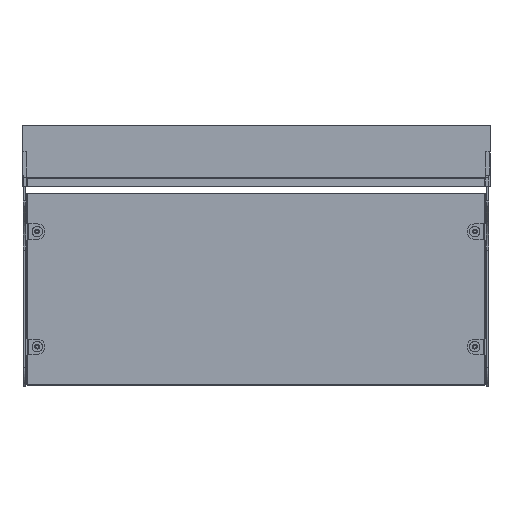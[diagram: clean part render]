
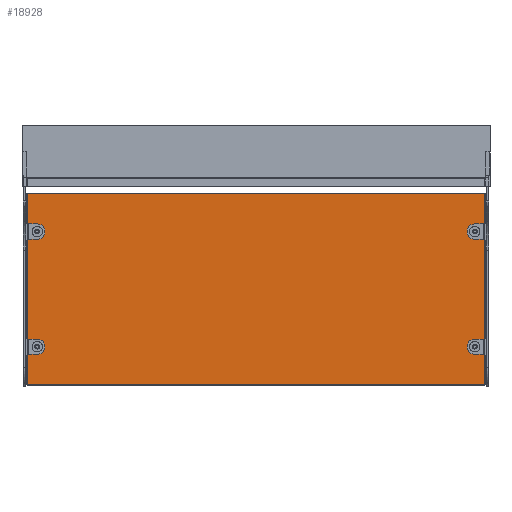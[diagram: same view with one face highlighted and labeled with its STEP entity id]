
A CAD part, front view. The second image highlights one B-rep face of the part: STEP entity #18928.
In plain terms, the highlighted planar face has unit normal (0, -1, -0.018).
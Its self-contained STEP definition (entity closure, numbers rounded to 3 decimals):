
#329 = DIRECTION ( 'NONE',  ( 1., 0., 0. ) ) ;
#517 = DIRECTION ( 'NONE',  ( 0., 1., 0.017 ) ) ;
#556 = CARTESIAN_POINT ( 'NONE',  ( 285., 731.657, -288.359 ) ) ;
#603 = ORIENTED_EDGE ( 'NONE', *, *, #13571, .T. ) ;
#637 = AXIS2_PLACEMENT_3D ( 'NONE', #6532, #4719, #4609 ) ;
#1152 = VERTEX_POINT ( 'NONE', #12552 ) ;
#1166 = DIRECTION ( 'NONE',  ( 0., 1., 0.017 ) ) ;
#1315 = EDGE_LOOP ( 'NONE', ( #4545, #18862 ) ) ;
#1637 = CARTESIAN_POINT ( 'NONE',  ( -550.407, 732.512, -337.352 ) ) ;
#1751 = CIRCLE ( 'NONE', #13664, 3.15 ) ;
#1856 = ORIENTED_EDGE ( 'NONE', *, *, #17512, .T. ) ;
#1965 = CIRCLE ( 'NONE', #13250, 3.15 ) ;
#2098 = EDGE_CURVE ( 'NONE', #6973, #17667, #19669, .T. ) ;
#2411 = ORIENTED_EDGE ( 'NONE', *, *, #4173, .T. ) ;
#2561 = EDGE_CURVE ( 'NONE', #1152, #12020, #1965, .T. ) ;
#2682 = FACE_BOUND ( 'NONE', #10963, .T. ) ;
#2971 = DIRECTION ( 'NONE',  ( 1., 0., 0. ) ) ;
#3406 = DIRECTION ( 'NONE',  ( 0., 1., 0.017 ) ) ;
#3552 = CARTESIAN_POINT ( 'NONE',  ( 285., 729.039, -138.382 ) ) ;
#3636 = ORIENTED_EDGE ( 'NONE', *, *, #5932, .F. ) ;
#3678 = CIRCLE ( 'NONE', #4309, 3.15 ) ;
#3817 = EDGE_CURVE ( 'NONE', #6271, #10224, #3678, .T. ) ;
#3929 = EDGE_CURVE ( 'NONE', #18760, #6718, #1751, .T. ) ;
#4099 = VECTOR ( 'NONE', #9112, 1000. ) ;
#4173 = EDGE_CURVE ( 'NONE', #13532, #5659, #6592, .T. ) ;
#4174 = CARTESIAN_POINT ( 'NONE',  ( -285., 731.657, -288.359 ) ) ;
#4309 = AXIS2_PLACEMENT_3D ( 'NONE', #14521, #18764, #8087 ) ;
#4420 = LINE ( 'NONE', #16634, #16231 ) ;
#4545 = ORIENTED_EDGE ( 'NONE', *, *, #8965, .F. ) ;
#4609 = DIRECTION ( 'NONE',  ( 0., 0.017, -1. ) ) ;
#4719 = DIRECTION ( 'NONE',  ( 0., -1., -0.017 ) ) ;
#4753 = AXIS2_PLACEMENT_3D ( 'NONE', #4174, #14982, #7302 ) ;
#5088 = ORIENTED_EDGE ( 'NONE', *, *, #3817, .F. ) ;
#5659 = VERTEX_POINT ( 'NONE', #13298 ) ;
#5891 = CARTESIAN_POINT ( 'NONE',  ( 285., 731.602, -285.21 ) ) ;
#5932 = EDGE_CURVE ( 'NONE', #10224, #6271, #13465, .T. ) ;
#6058 = ORIENTED_EDGE ( 'NONE', *, *, #2561, .T. ) ;
#6271 = VERTEX_POINT ( 'NONE', #12618 ) ;
#6272 = CIRCLE ( 'NONE', #18178, 3.15 ) ;
#6525 = DIRECTION ( 'NONE',  ( 0., 0.017, -1. ) ) ;
#6532 = CARTESIAN_POINT ( 'NONE',  ( -285., 729.039, -138.382 ) ) ;
#6592 = LINE ( 'NONE', #1637, #8516 ) ;
#6718 = VERTEX_POINT ( 'NONE', #14139 ) ;
#6973 = VERTEX_POINT ( 'NONE', #5891 ) ;
#7302 = DIRECTION ( 'NONE',  ( 0., 0.017, -1. ) ) ;
#7510 = FACE_OUTER_BOUND ( 'NONE', #14234, .T. ) ;
#8022 = CARTESIAN_POINT ( 'NONE',  ( 285., 731.712, -291.509 ) ) ;
#8087 = DIRECTION ( 'NONE',  ( 0., 0.017, -1. ) ) ;
#8516 = VECTOR ( 'NONE', #329, 1000. ) ;
#8965 = EDGE_CURVE ( 'NONE', #6718, #18760, #14172, .T. ) ;
#9000 = LINE ( 'NONE', #15234, #19166 ) ;
#9044 = FACE_BOUND ( 'NONE', #1315, .T. ) ;
#9112 = DIRECTION ( 'NONE',  ( 0., 0.017, -1. ) ) ;
#9181 = CIRCLE ( 'NONE', #14339, 3.15 ) ;
#9220 = CARTESIAN_POINT ( 'NONE',  ( 285., 729.039, -138.382 ) ) ;
#9706 = EDGE_LOOP ( 'NONE', ( #5088, #3636 ) ) ;
#9808 = EDGE_CURVE ( 'NONE', #17924, #5659, #18383, .T. ) ;
#10224 = VERTEX_POINT ( 'NONE', #17772 ) ;
#10655 = CARTESIAN_POINT ( 'NONE',  ( -550.407, 726.762, -7.918 ) ) ;
#10963 = EDGE_LOOP ( 'NONE', ( #1856, #11883 ) ) ;
#10977 = AXIS2_PLACEMENT_3D ( 'NONE', #556, #3406, #6525 ) ;
#11883 = ORIENTED_EDGE ( 'NONE', *, *, #2098, .T. ) ;
#12020 = VERTEX_POINT ( 'NONE', #19859 ) ;
#12161 = CARTESIAN_POINT ( 'NONE',  ( 285., 731.657, -288.359 ) ) ;
#12552 = CARTESIAN_POINT ( 'NONE',  ( 285., 729.094, -141.532 ) ) ;
#12618 = CARTESIAN_POINT ( 'NONE',  ( -285., 731.712, -291.509 ) ) ;
#12745 = DIRECTION ( 'NONE',  ( 0., 0.017, -1. ) ) ;
#13250 = AXIS2_PLACEMENT_3D ( 'NONE', #3552, #517, #12745 ) ;
#13298 = CARTESIAN_POINT ( 'NONE',  ( 298., 732.512, -337.352 ) ) ;
#13465 = CIRCLE ( 'NONE', #4753, 3.15 ) ;
#13532 = VERTEX_POINT ( 'NONE', #15991 ) ;
#13571 = EDGE_CURVE ( 'NONE', #17808, #13532, #9000, .T. ) ;
#13664 = AXIS2_PLACEMENT_3D ( 'NONE', #17649, #19563, #16235 ) ;
#14056 = CARTESIAN_POINT ( 'NONE',  ( 298., 732.529, -338.352 ) ) ;
#14074 = EDGE_CURVE ( 'NONE', #17924, #17808, #4420, .T. ) ;
#14139 = CARTESIAN_POINT ( 'NONE',  ( -285., 729.094, -141.532 ) ) ;
#14172 = CIRCLE ( 'NONE', #637, 3.15 ) ;
#14234 = EDGE_LOOP ( 'NONE', ( #2411, #19476, #17455, #603 ) ) ;
#14339 = AXIS2_PLACEMENT_3D ( 'NONE', #12161, #19426, #15177 ) ;
#14392 = CARTESIAN_POINT ( 'NONE',  ( -285., 728.984, -135.232 ) ) ;
#14521 = CARTESIAN_POINT ( 'NONE',  ( -285., 731.657, -288.359 ) ) ;
#14943 = CARTESIAN_POINT ( 'NONE',  ( -298., 728.184, -89.389 ) ) ;
#14982 = DIRECTION ( 'NONE',  ( 0., -1., -0.017 ) ) ;
#15001 = PLANE ( 'NONE',  #16400 ) ;
#15050 = EDGE_CURVE ( 'NONE', #12020, #1152, #6272, .T. ) ;
#15177 = DIRECTION ( 'NONE',  ( 0., 0.017, -1. ) ) ;
#15221 = CARTESIAN_POINT ( 'NONE',  ( 298., 728.184, -89.389 ) ) ;
#15234 = CARTESIAN_POINT ( 'NONE',  ( -298., 732.529, -338.352 ) ) ;
#15365 = DIRECTION ( 'NONE',  ( 0., 0.017, -1. ) ) ;
#15389 = EDGE_LOOP ( 'NONE', ( #6058, #19557 ) ) ;
#15991 = CARTESIAN_POINT ( 'NONE',  ( -298., 732.512, -337.352 ) ) ;
#16231 = VECTOR ( 'NONE', #18250, 1000. ) ;
#16235 = DIRECTION ( 'NONE',  ( 0., 0.017, -1. ) ) ;
#16400 = AXIS2_PLACEMENT_3D ( 'NONE', #10655, #1166, #2971 ) ;
#16634 = CARTESIAN_POINT ( 'NONE',  ( -299., 728.184, -89.389 ) ) ;
#16697 = FACE_BOUND ( 'NONE', #15389, .T. ) ;
#17079 = DIRECTION ( 'NONE',  ( 0., 1., 0.017 ) ) ;
#17455 = ORIENTED_EDGE ( 'NONE', *, *, #14074, .T. ) ;
#17512 = EDGE_CURVE ( 'NONE', #17667, #6973, #9181, .T. ) ;
#17649 = CARTESIAN_POINT ( 'NONE',  ( -285., 729.039, -138.382 ) ) ;
#17667 = VERTEX_POINT ( 'NONE', #8022 ) ;
#17772 = CARTESIAN_POINT ( 'NONE',  ( -285., 731.602, -285.21 ) ) ;
#17808 = VERTEX_POINT ( 'NONE', #14943 ) ;
#17911 = DIRECTION ( 'NONE',  ( 0., 0.017, -1. ) ) ;
#17924 = VERTEX_POINT ( 'NONE', #15221 ) ;
#18178 = AXIS2_PLACEMENT_3D ( 'NONE', #9220, #17079, #15365 ) ;
#18250 = DIRECTION ( 'NONE',  ( -1., 0., 0. ) ) ;
#18383 = LINE ( 'NONE', #14056, #4099 ) ;
#18760 = VERTEX_POINT ( 'NONE', #14392 ) ;
#18764 = DIRECTION ( 'NONE',  ( 0., -1., -0.017 ) ) ;
#18862 = ORIENTED_EDGE ( 'NONE', *, *, #3929, .F. ) ;
#18928 = ADVANCED_FACE ( 'NONE', ( #2682, #16697, #19919, #9044, #7510 ), #15001, .F. ) ;
#19166 = VECTOR ( 'NONE', #17911, 1000. ) ;
#19426 = DIRECTION ( 'NONE',  ( 0., 1., 0.017 ) ) ;
#19476 = ORIENTED_EDGE ( 'NONE', *, *, #9808, .F. ) ;
#19557 = ORIENTED_EDGE ( 'NONE', *, *, #15050, .T. ) ;
#19563 = DIRECTION ( 'NONE',  ( 0., -1., -0.017 ) ) ;
#19669 = CIRCLE ( 'NONE', #10977, 3.15 ) ;
#19859 = CARTESIAN_POINT ( 'NONE',  ( 285., 728.984, -135.232 ) ) ;
#19919 = FACE_BOUND ( 'NONE', #9706, .T. ) ;
